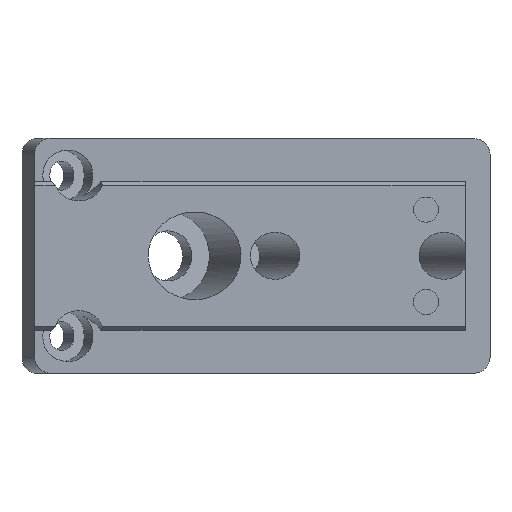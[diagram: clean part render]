
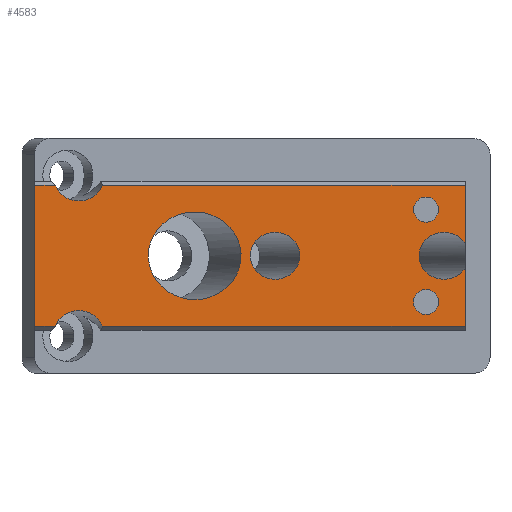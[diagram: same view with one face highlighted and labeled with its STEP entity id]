
A CAD part, top view. The second image highlights one B-rep face of the part: STEP entity #4583.
In plain terms, the highlighted planar face has unit normal (0, 0, 1).
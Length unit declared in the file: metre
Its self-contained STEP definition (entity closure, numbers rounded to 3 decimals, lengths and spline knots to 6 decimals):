
#228=ELLIPSE('',#4875,0.005923,0.0056);
#229=ELLIPSE('',#4876,0.003173,0.003);
#230=ELLIPSE('',#4879,0.003173,0.003);
#231=ELLIPSE('',#4880,0.003173,0.003);
#232=ELLIPSE('',#4881,0.003173,0.003);
#313=CIRCLE('',#4877,0.0016);
#314=CIRCLE('',#4878,0.0016);
#408=ORIENTED_EDGE('',*,*,#1802,.T.);
#409=ORIENTED_EDGE('',*,*,#1803,.T.);
#410=ORIENTED_EDGE('',*,*,#1804,.T.);
#411=ORIENTED_EDGE('',*,*,#1805,.T.);
#412=ORIENTED_EDGE('',*,*,#1806,.F.);
#413=ORIENTED_EDGE('',*,*,#1807,.T.);
#414=ORIENTED_EDGE('',*,*,#1808,.F.);
#415=ORIENTED_EDGE('',*,*,#1809,.T.);
#416=ORIENTED_EDGE('',*,*,#1810,.F.);
#417=ORIENTED_EDGE('',*,*,#1811,.T.);
#418=ORIENTED_EDGE('',*,*,#1812,.T.);
#419=ORIENTED_EDGE('',*,*,#1813,.T.);
#420=ORIENTED_EDGE('',*,*,#1814,.F.);
#421=ORIENTED_EDGE('',*,*,#1815,.T.);
#1802=EDGE_CURVE('',#2499,#2499,#228,.T.);
#1803=EDGE_CURVE('',#2500,#2500,#229,.T.);
#1804=EDGE_CURVE('',#2501,#2501,#313,.T.);
#1805=EDGE_CURVE('',#2502,#2502,#314,.T.);
#1806=EDGE_CURVE('',#2503,#2504,#2949,.T.);
#1807=EDGE_CURVE('',#2503,#2505,#230,.T.);
#1808=EDGE_CURVE('',#2506,#2505,#2950,.T.);
#1809=EDGE_CURVE('',#2506,#2507,#2951,.T.);
#1810=EDGE_CURVE('',#2508,#2507,#231,.F.);
#1811=EDGE_CURVE('',#2508,#2509,#2952,.T.);
#1812=EDGE_CURVE('',#2509,#2510,#2953,.T.);
#1813=EDGE_CURVE('',#2510,#2511,#2954,.T.);
#1814=EDGE_CURVE('',#2512,#2511,#232,.F.);
#1815=EDGE_CURVE('',#2512,#2504,#2955,.T.);
#2499=VERTEX_POINT('',#6250);
#2500=VERTEX_POINT('',#6252);
#2501=VERTEX_POINT('',#6254);
#2502=VERTEX_POINT('',#6256);
#2503=VERTEX_POINT('',#6258);
#2504=VERTEX_POINT('',#6259);
#2505=VERTEX_POINT('',#6261);
#2506=VERTEX_POINT('',#6263);
#2507=VERTEX_POINT('',#6265);
#2508=VERTEX_POINT('',#6267);
#2509=VERTEX_POINT('',#6269);
#2510=VERTEX_POINT('',#6271);
#2511=VERTEX_POINT('',#6273);
#2512=VERTEX_POINT('',#6275);
#2949=LINE('',#6257,#3405);
#2950=LINE('',#6262,#3406);
#2951=LINE('',#6264,#3407);
#2952=LINE('',#6268,#3408);
#2953=LINE('',#6270,#3409);
#2954=LINE('',#6272,#3410);
#2955=LINE('',#6276,#3411);
#3405=VECTOR('',#5214,1.);
#3406=VECTOR('',#5217,1.);
#3407=VECTOR('',#5218,1.);
#3408=VECTOR('',#5221,1.);
#3409=VECTOR('',#5222,1.);
#3410=VECTOR('',#5223,1.);
#3411=VECTOR('',#5226,1.);
#3848=EDGE_LOOP('',(#408));
#3849=EDGE_LOOP('',(#409));
#3850=EDGE_LOOP('',(#410));
#3851=EDGE_LOOP('',(#411));
#3852=EDGE_LOOP('',(#412,#413,#414,#415,#416,#417,#418,#419,#420,#421));
#4146=FACE_BOUND('',#3848,.T.);
#4147=FACE_BOUND('',#3849,.T.);
#4148=FACE_BOUND('',#3850,.T.);
#4149=FACE_BOUND('',#3851,.T.);
#4150=FACE_BOUND('',#3852,.T.);
#4436=PLANE('',#4874);
#4583=ADVANCED_FACE('',(#4146,#4147,#4148,#4149,#4150),#4436,.F.);
#4874=AXIS2_PLACEMENT_3D('',#6248,#5204,#5205);
#4875=AXIS2_PLACEMENT_3D('',#6249,#5206,#5207);
#4876=AXIS2_PLACEMENT_3D('',#6251,#5208,#5209);
#4877=AXIS2_PLACEMENT_3D('',#6253,#5210,#5211);
#4878=AXIS2_PLACEMENT_3D('',#6255,#5212,#5213);
#4879=AXIS2_PLACEMENT_3D('',#6260,#5215,#5216);
#4880=AXIS2_PLACEMENT_3D('',#6266,#5219,#5220);
#4881=AXIS2_PLACEMENT_3D('',#6274,#5224,#5225);
#5204=DIRECTION('',(0.,0.,-1.));
#5205=DIRECTION('',(-1.,0.,0.));
#5206=DIRECTION('',(0.,0.,-1.));
#5207=DIRECTION('',(-1.,0.,0.));
#5208=DIRECTION('',(0.,0.,-1.));
#5209=DIRECTION('',(-1.,0.,0.));
#5210=DIRECTION('',(0.,0.,-1.));
#5211=DIRECTION('',(-1.,0.,0.));
#5212=DIRECTION('',(0.,0.,-1.));
#5213=DIRECTION('',(-1.,0.,0.));
#5214=DIRECTION('',(0.,-1.,0.));
#5215=DIRECTION('',(0.,0.,-1.));
#5216=DIRECTION('',(-1.,0.,0.));
#5217=DIRECTION('',(0.,-1.,0.));
#5218=DIRECTION('',(-1.,0.,0.));
#5219=DIRECTION('',(0.,0.,-1.));
#5220=DIRECTION('',(-1.,0.,0.));
#5221=DIRECTION('',(-1.,0.,0.));
#5222=DIRECTION('',(0.,-1.,0.));
#5223=DIRECTION('',(1.,0.,0.));
#5224=DIRECTION('',(0.,0.,-1.));
#5225=DIRECTION('',(-1.,0.,0.));
#5226=DIRECTION('',(1.,0.,0.));
#6248=CARTESIAN_POINT('',(0.055,0.,0.0041));
#6249=CARTESIAN_POINT('',(0.020449,0.,0.0041));
#6250=CARTESIAN_POINT('',(0.014526,0.,0.0041));
#6251=CARTESIAN_POINT('',(0.030708,0.,0.0041));
#6252=CARTESIAN_POINT('',(0.027535,0.,0.0041));
#6253=CARTESIAN_POINT('',(0.05,0.0059,0.0041));
#6254=CARTESIAN_POINT('',(0.0484,0.0059,0.0041));
#6255=CARTESIAN_POINT('',(0.05,-0.0059,0.0041));
#6256=CARTESIAN_POINT('',(0.0484,-0.0059,0.0041));
#6257=CARTESIAN_POINT('',(0.055,0.,0.0041));
#6258=CARTESIAN_POINT('',(0.055,-0.00155,0.0041));
#6259=CARTESIAN_POINT('',(0.055,-0.009004,0.0041));
#6260=CARTESIAN_POINT('',(0.052283,0.,0.0041));
#6261=CARTESIAN_POINT('',(0.055,0.00155,0.0041));
#6262=CARTESIAN_POINT('',(0.055,0.,0.0041));
#6263=CARTESIAN_POINT('',(0.055,0.009004,0.0041));
#6264=CARTESIAN_POINT('',(0.,0.009004,0.0041));
#6265=CARTESIAN_POINT('',(0.008635,0.009004,0.0041));
#6266=CARTESIAN_POINT('',(0.005642,0.01,0.0041));
#6267=CARTESIAN_POINT('',(0.002649,0.009004,0.0041));
#6268=CARTESIAN_POINT('',(0.,0.009004,0.0041));
#6269=CARTESIAN_POINT('',(0.,0.009004,0.0041));
#6270=CARTESIAN_POINT('',(0.,0.,0.0041));
#6271=CARTESIAN_POINT('',(0.,-0.009004,0.0041));
#6272=CARTESIAN_POINT('',(0.055,-0.009004,0.0041));
#6273=CARTESIAN_POINT('',(0.002649,-0.009004,0.0041));
#6274=CARTESIAN_POINT('',(0.005642,-0.01,0.0041));
#6275=CARTESIAN_POINT('',(0.008635,-0.009004,0.0041));
#6276=CARTESIAN_POINT('',(0.055,-0.009004,0.0041));
